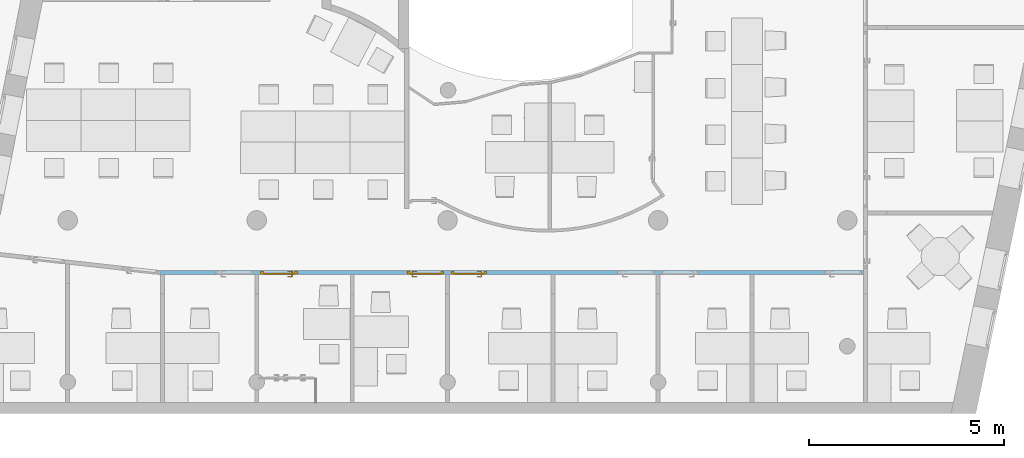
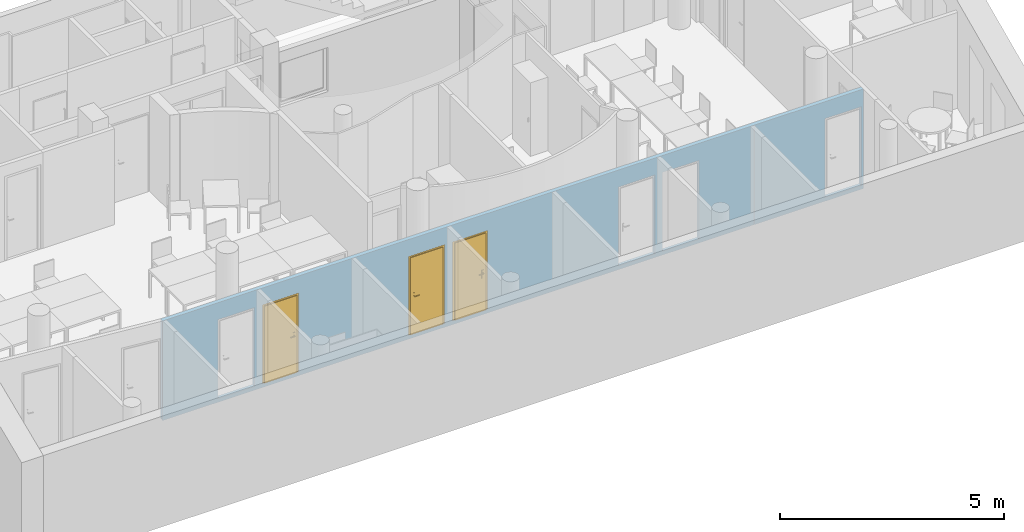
"""IFC4 building model written with IfcOpenShell, lengths in metres."""

import ifcopenshell
import ifcopenshell.guid

model = None  # the IFC model being written
_history = None  # IfcOwnerHistory: only IFC2X3 demands one
_inside = {}  # id of a spatial element -> (the spatial element, [elements in it])
_under = {}  # id of a project, library or spatial element -> (it, [spatial elements below it])
_declared = {}  # id of a project -> (the project, [libraries it declares])
_typed = {}  # id of a type object -> (the type object, [elements of that type])
_made_of = {}  # id of a material, layer set ... -> (it, [elements and type objects made of it])


def new_model(schema):
    """Start an empty IFC model of exactly this schema.

    Asked for "IFC4X3", IfcOpenShell would pick the latest addendum, in which some entities
    have other attributes; the version numbers below select the first issue.
    IFC2X3 requires an IfcOwnerHistory on every rooted entity: one is made here for all.
    """
    global model, _history
    if schema == "IFC4X3":
        model = ifcopenshell.file(schema_version=(4, 3, 0, 0))
    else:
        model = ifcopenshell.file(schema=schema)
    _inside.clear()
    _under.clear()
    _declared.clear()
    _typed.clear()
    _made_of.clear()
    _history = None
    if model.schema == "IFC2X3":
        org = make("IfcOrganization", Name="unknown")
        user = make(
            "IfcPersonAndOrganization",
            ThePerson=make("IfcPerson", FamilyName="unknown"),
            TheOrganization=org,
        )
        app = make(
            "IfcApplication",
            ApplicationDeveloper=org,
            Version="unknown",
            ApplicationFullName="unknown",
            ApplicationIdentifier="unknown",
        )
        _history = make(
            "IfcOwnerHistory",
            OwningUser=user,
            OwningApplication=app,
            ChangeAction="ADDED",
            CreationDate=0,
        )
    return model


def make(cls, **values):
    """One entity of the class cls with the attributes given. An attribute that is None is left unset."""
    return model.create_entity(
        cls, **{name: value for name, value in values.items() if value is not None}
    )


def entity(cls, *values):
    """Any entity or typed value of the class cls, its attributes in the order of the schema. None: left unset."""
    e = model.create_entity(cls)
    for i, value in enumerate(values):
        if value is not None:
            e[i] = value
    return e


def rooted(cls, **values):
    """An entity with a GlobalId (a new one), such as an element, a storey or a relation."""
    return make(cls, GlobalId=ifcopenshell.guid.new(), OwnerHistory=_history, **values)


def si_unit(unit_type, name, prefix=None):
    """IfcSIUnit, for example si_unit("LENGTHUNIT", "METRE", prefix="MILLI")."""
    return make("IfcSIUnit", UnitType=unit_type, Prefix=prefix, Name=name)


def converted_unit(unit_type, name, factor, base, dimensions=None, offset=None):
    """IfcConversionBasedUnit, such as the inch: factor (a typed value) times the base unit."""
    return make(
        "IfcConversionBasedUnit"
        if offset is None
        else "IfcConversionBasedUnitWithOffset",
        ConversionOffset=offset,
        Dimensions=None
        if dimensions is None
        else entity("IfcDimensionalExponents", *dimensions),
        UnitType=unit_type,
        Name=name,
        ConversionFactor=make(
            "IfcMeasureWithUnit", ValueComponent=factor, UnitComponent=base
        ),
    )


def derived_unit(unit_type, elements):
    """IfcDerivedUnit: a product of units, each with its exponent."""
    return make(
        "IfcDerivedUnit",
        Elements=[
            make("IfcDerivedUnitElement", Unit=unit, Exponent=power)
            for unit, power in elements
        ],
        UnitType=unit_type,
    )


def assignment(units):
    """IfcUnitAssignment: the units of a project."""
    return None if units is None else make("IfcUnitAssignment", Units=units)


def point(xyz):
    """IfcCartesianPoint."""
    return None if xyz is None else make("IfcCartesianPoint", Coordinates=xyz)


def direction(xyz):
    """IfcDirection."""
    return None if xyz is None else make("IfcDirection", DirectionRatios=xyz)


def frame(location, z_axis=None, x_axis=None):
    """IfcAxis2Placement3D, a coordinate frame: its origin and axes. An axis left out is left unset."""
    return make(
        "IfcAxis2Placement3D",
        Location=point(location),
        Axis=direction(z_axis),
        RefDirection=direction(x_axis),
    )


def origin():
    """The frame at (0, 0, 0) with its axes left unset."""
    return frame((0.0, 0.0, 0.0))


def origin_with_axes():
    """The frame at (0, 0, 0) with the z axis (0, 0, 1) and the x axis (1, 0, 0) written out."""
    return frame((0.0, 0.0, 0.0), z_axis=(0.0, 0.0, 1.0), x_axis=(1.0, 0.0, 0.0))


def place(relative_to, where):
    """IfcLocalPlacement: puts the frame where relative to a parent placement (None: the world)."""
    return make(
        "IfcLocalPlacement", PlacementRelTo=relative_to, RelativePlacement=where
    )


def context(
    kind, dimensions, precision=None, world=None, true_north=None, identifier=None
):
    """IfcGeometricRepresentationContext, for example the 3D "Model" context."""
    return make(
        "IfcGeometricRepresentationContext",
        ContextIdentifier=identifier,
        ContextType=kind,
        CoordinateSpaceDimension=dimensions,
        Precision=precision,
        WorldCoordinateSystem=world,
        TrueNorth=true_north,
    )


def subcontext(parent, identifier, kind, view, scale=None):
    """IfcGeometricRepresentationSubContext, for example "Body" below "Model"."""
    return make(
        "IfcGeometricRepresentationSubContext",
        ContextIdentifier=identifier,
        ContextType=kind,
        ParentContext=parent,
        TargetScale=scale,
        TargetView=view,
    )


def project(units=None, contexts=None):
    """IfcProject with its units and contexts."""
    return rooted(
        "IfcProject",
        Name="project",
        RepresentationContexts=contexts,
        UnitsInContext=assignment(units),
    )


def spatial(cls, under=None, at=None, **own):
    """A site, building, storey or space (cls), placed at a placement, below another one or the project."""
    s = rooted(cls, ObjectPlacement=at, **own)
    if under is not None:
        _under.setdefault(under.id(), (under, []))[1].append(s)
    return s


def polyline(points):
    """IfcPolyline through the points."""
    return make("IfcPolyline", Points=[point(p) for p in points])


def outline(outer, holes=None, kind="AREA"):
    """IfcArbitraryClosedProfileDef: a profile drawn as a closed curve; with holes, ...WithVoids."""
    if holes is None:
        return make("IfcArbitraryClosedProfileDef", ProfileType=kind, OuterCurve=outer)
    return make(
        "IfcArbitraryProfileDefWithVoids",
        ProfileType=kind,
        OuterCurve=outer,
        InnerCurves=holes,
    )


def extrude(swept, where, along, depth):
    """IfcExtrudedAreaSolid: the profile swept, set in the frame where, extruded along a direction by depth."""
    return make(
        "IfcExtrudedAreaSolid",
        SweptArea=swept,
        Position=where,
        ExtrudedDirection=direction(along),
        Depth=depth,
    )


def faces_of(points, faces, orient=None, outer=None):
    """IfcFace entities. A face is a list of loops; a loop is a list of indices into points, from 0.

    orient and outer hold one flag for each loop. By default every Orientation is true, the
    first loop of a face is its IfcFaceOuterBound and the others are IfcFaceBound.
    """
    made = []
    for i, loops in enumerate(faces):
        bounds = []
        for j, loop in enumerate(loops):
            is_outer = j == 0 if outer is None else outer[i][j]
            bounds.append(
                make(
                    "IfcFaceOuterBound" if is_outer else "IfcFaceBound",
                    Bound=make("IfcPolyLoop", Polygon=[points[k] for k in loop]),
                    Orientation=True if orient is None else orient[i][j],
                )
            )
        made.append(make("IfcFace", Bounds=bounds))
    return made


def faceted_brep(points, faces, orient=None, outer=None, voids=None):
    """IfcFacetedBrep: a solid bounded by flat faces; with voids (closed shells), ...WithVoids."""
    shared = [point(p) for p in points]
    hull = make("IfcClosedShell", CfsFaces=faces_of(shared, faces, orient, outer))
    if voids is None:
        return make("IfcFacetedBrep", Outer=hull)
    return make(
        "IfcFacetedBrepWithVoids",
        Outer=hull,
        Voids=[
            make(cls, CfsFaces=faces_of(shared, fs, o, b)) for cls, fs, o, b in voids
        ],
    )


def shape(context_of_items, identifier, shape_type, items):
    """IfcShapeRepresentation: the items that make up one representation, for example the "Body"."""
    return make(
        "IfcShapeRepresentation",
        ContextOfItems=context_of_items,
        RepresentationIdentifier=identifier,
        RepresentationType=shape_type,
        Items=items,
    )


def source(mapping_origin, context_of_items, identifier, shape_type, items):
    """IfcRepresentationMap: a shape defined once, which mapped items show again and again."""
    return make(
        "IfcRepresentationMap",
        MappingOrigin=mapping_origin,
        MappedRepresentation=shape(context_of_items, identifier, shape_type, items),
    )


def transform(
    local_origin,
    x_axis=None,
    y_axis=None,
    z_axis=None,
    scale=None,
    scale2=None,
    scale3=None,
    uniform=True,
):
    """IfcCartesianTransformationOperator3D, or its non-uniform kind. x_axis, y_axis, z_axis: its Axis1, 2, 3."""
    if uniform:
        return make(
            "IfcCartesianTransformationOperator3D",
            Axis1=direction(x_axis),
            Axis2=direction(y_axis),
            LocalOrigin=point(local_origin),
            Scale=scale,
            Axis3=direction(z_axis),
        )
    return make(
        "IfcCartesianTransformationOperator3DnonUniform",
        Axis1=direction(x_axis),
        Axis2=direction(y_axis),
        LocalOrigin=point(local_origin),
        Scale=scale,
        Axis3=direction(z_axis),
        Scale2=scale2,
        Scale3=scale3,
    )


def mapped(mapping_source, mapping_target):
    """IfcMappedItem: shows the shape of a source again, moved by a transform."""
    return make(
        "IfcMappedItem", MappingSource=mapping_source, MappingTarget=mapping_target
    )


def material(Name=None, Category=None):
    """IfcMaterial."""
    return make("IfcMaterial", Name=Name, Category=Category)


def layer(
    of_material, thickness, ventilated=None, Name=None, Category=None, Priority=None
):
    """IfcMaterialLayer: one layer of a wall or slab, of a material (None: an air gap)."""
    return make(
        "IfcMaterialLayer",
        Material=of_material,
        LayerThickness=thickness,
        IsVentilated=ventilated,
        Name=Name,
        Category=Category,
        Priority=Priority,
    )


def layer_set(layers, Name=None):
    """IfcMaterialLayerSet."""
    return make("IfcMaterialLayerSet", MaterialLayers=layers, LayerSetName=Name)


def layer_usage(for_layer_set, set_direction, sense, offset, extent=None):
    """IfcMaterialLayerSetUsage: how a layer set lies in its element."""
    return make(
        "IfcMaterialLayerSetUsage",
        ForLayerSet=for_layer_set,
        LayerSetDirection=set_direction,
        DirectionSense=sense,
        OffsetFromReferenceLine=offset,
        ReferenceExtent=extent,
    )


def made_of(thing, what):
    """Note that an element or type object is made of a material, layer set ...; save() writes the relation."""
    if what is not None:
        _made_of.setdefault(what.id(), (what, []))[1].append(thing)
    return thing


def element(
    cls,
    number,
    at=None,
    inside=None,
    cuts=None,
    type_object=None,
    material=None,
    context=None,
    identifier="Body",
    shape_type=None,
    held_by="IfcProductDefinitionShape",
    body=None,
    shapes=None,
    **own,
):
    """One element of the class cls, such as IfcWall. Its Tag is "e" and its number.

    at: its placement. inside: the storey or other place that contains it. cuts: it is an
    opening in that element (IfcRelVoidsElement). A single representation is given by context,
    identifier, shape_type and body (its items); several are given by shapes. held_by: the class
    of the entity that holds the representations. save() writes the other relations.
    """
    e = rooted(cls, Tag="e%d" % number, ObjectPlacement=at, **own)
    if body is not None:
        shapes = [shape(context, identifier, shape_type, body)]
    if shapes is not None:
        e.Representation = make(held_by, Representations=shapes)
    if inside is not None:
        _inside.setdefault(inside.id(), (inside, []))[1].append(e)
    if cuts is not None:
        rooted(
            "IfcRelVoidsElement", RelatingBuildingElement=cuts, RelatedOpeningElement=e
        )
    if type_object is not None:
        _typed.setdefault(type_object.id(), (type_object, []))[1].append(e)
    return made_of(e, material)


def fill(opening, filler):
    """IfcRelFillsElement: the door or window that sits in an opening."""
    return rooted(
        "IfcRelFillsElement",
        RelatingOpeningElement=opening,
        RelatedBuildingElement=filler,
    )


def aggregate(whole, parts):
    """IfcRelAggregates: a whole, such as a stair, and the parts it consists of."""
    return rooted("IfcRelAggregates", RelatingObject=whole, RelatedObjects=parts)


def save(model, path):
    """Write the relations noted so far, then the file.

    IfcRelAggregates (storeys below a building ...), IfcRelContainedInSpatialStructure (elements
    in a storey), IfcRelDefinesByType, IfcRelAssociatesMaterial and IfcRelDeclares: one each for
    every whole, place, type object, material and project.
    """
    for whole, parts in _under.values():
        aggregate(whole, parts)
    for where, things in _inside.values():
        rooted(
            "IfcRelContainedInSpatialStructure",
            RelatedElements=things,
            RelatingStructure=where,
        )
    for kind, things in _typed.values():
        rooted("IfcRelDefinesByType", RelatedObjects=things, RelatingType=kind)
    for what, things in _made_of.values():
        rooted("IfcRelAssociatesMaterial", RelatedObjects=things, RelatingMaterial=what)
    for by, libraries in _declared.values():
        rooted("IfcRelDeclares", RelatingContext=by, RelatedDefinitions=libraries)
    model.write(path)


model = new_model("IFC4")

# Units and contexts
model_context = context("Model", 3, precision=1e-05, world=origin())
body_context = subcontext(model_context, "Body", "Model", "MODEL_VIEW")
ifc_project = project(units=[si_unit("LENGTHUNIT", "METRE"), si_unit("AREAUNIT", "SQUARE_METRE"), si_unit("VOLUMEUNIT", "CUBIC_METRE"), si_unit("MASSUNIT", "GRAM", prefix="KILO"), converted_unit("PLANEANGLEUNIT", "DEGREE", entity("IfcPlaneAngleMeasure", 0.0174532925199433), si_unit("PLANEANGLEUNIT", "RADIAN"), dimensions=[0, 0, 0, 0, 0, 0, 0]), derived_unit("THERMALTRANSMITTANCEUNIT", [(si_unit("POWERUNIT", "WATT"), 1), (si_unit("THERMODYNAMICTEMPERATUREUNIT", "KELVIN"), -1), (si_unit("LENGTHUNIT", "METRE"), -2)]), derived_unit("VOLUMETRICFLOWRATEUNIT", [(si_unit("LENGTHUNIT", "METRE"), 3), (converted_unit("TIMEUNIT", "hour", entity("IfcTimeMeasure", 3600.0), si_unit("TIMEUNIT", "SECOND"), dimensions=[0, 0, 1, 0, 0, 0, 0]), -1), (si_unit("LENGTHUNIT", "METRE"), -1)])], contexts=[model_context])

# Building, storeys
building_placement = place(None, origin())
building = spatial("IfcBuilding", under=ifc_project, at=building_placement, Name="HABITATGE PLURIFAMILIAR", CompositionType="ELEMENT")
storey_1_placement = place(building_placement, frame((0.0, 0.0, 6.25)))
storey_1 = spatial("IfcBuildingStorey", under=building, at=storey_1_placement, Name="PLANTA PRIMERA", CompositionType="ELEMENT", Elevation=6.25)
storey_2_placement = place(storey_1_placement, frame((0.0, 0.0, 3.35)))
storey_2 = spatial("IfcBuildingStorey", under=storey_1, at=storey_2_placement, Name="NOU", CompositionType="PARTIAL")

# Wall, openings, doors
ifc_material = material()
ifc_layer = layer(ifc_material, 0.1)
ifc_layer_set = layer_set([ifc_layer])
ifc_layer_usage = layer_usage(ifc_layer_set, "AXIS2", "POSITIVE", 0.0)
wall_placement = place(storey_2_placement, frame((421.406984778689, 16.5094598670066, -3.45), z_axis=(0.0, 0.0, 1.0), x_axis=(-1.0, 0.0, 0.0)))
wall = element("IfcWall", 1, at=wall_placement, inside=storey_2, material=ifc_layer_usage, Name="Mampara P1", context=body_context, shape_type="SweptSolid", body=[
    extrude(outline(polyline([(-18.0374183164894, -0.1), (-0.00561454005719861, -0.1), (0.0, 0.0), (-15.1276972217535, 0.0), (-15.1276972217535, -0.000949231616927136), (-15.2276972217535, -0.000949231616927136), (-15.2276972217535, 0.0), (-18.0374183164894, 0.0), (-18.0374183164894, -0.1)])), frame((18.0374183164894, 0.1, 0.0), z_axis=(0.0, 0.0, 1.0), x_axis=(1.0, 0.0, 0.0)), (0.0, 0.0, 1.0), 2.71),
])
opening_1_placement = place(wall_placement, frame((0.99, 0.1, 0.1), z_axis=(0.0, -1.0, 0.0), x_axis=(0.0, 0.0, 1.0)))
element("IfcOpeningElement", 2, at=opening_1_placement, cuts=wall, Name="Vano de puerta P1", ObjectType="Opening", context=body_context, shape_type="SweptSolid", body=[
    extrude(outline(polyline([(2.15, 0.94), (2.15, 0.0), (0.0, 0.0), (0.0, 0.94), (2.15, 0.94)])), origin_with_axes(), (0.0, 0.0, 1.0), 0.1),
])
opening_2_placement = place(wall_placement, frame((4.22887875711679, 0.0, 0.1), z_axis=(0.0, 1.0, 0.0), x_axis=(0.0, 0.0, 1.0)))
element("IfcOpeningElement", 3, at=opening_2_placement, cuts=wall, Name="Vano de puerta P1", ObjectType="Opening", context=body_context, shape_type="SweptSolid", body=[
    extrude(outline(polyline([(2.15, 0.94), (2.15, 0.0), (0.0, 0.0), (0.0, 0.94), (2.15, 0.94)])), origin_with_axes(), (0.0, 0.0, 1.0), 0.1),
])
opening_3_placement = place(wall_placement, frame((5.36887875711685, 0.0, 0.1), z_axis=(0.0, 1.0, 0.0), x_axis=(0.0, 0.0, 1.0)))
element("IfcOpeningElement", 4, at=opening_3_placement, cuts=wall, Name="Vano de puerta P1", ObjectType="Opening", context=body_context, shape_type="SweptSolid", body=[
    extrude(outline(polyline([(2.15, 0.94), (2.15, 0.0), (0.0, 0.0), (0.0, 0.94), (2.15, 0.94)])), origin_with_axes(), (0.0, 0.0, 1.0), 0.1),
])
opening_4_placement = place(wall_placement, frame((9.6709060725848, 0.0, 0.1), z_axis=(0.0, 1.0, 0.0), x_axis=(0.0, 0.0, 1.0)))
opening_4 = element("IfcOpeningElement", 5, at=opening_4_placement, cuts=wall, Name="Vano de puerta P1", ObjectType="Opening", context=body_context, shape_type="SweptSolid", body=[
    extrude(outline(polyline([(2.15, 0.899999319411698), (2.15, 0.0), (0.0, 0.0), (0.0, 0.899999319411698), (2.15, 0.899999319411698)])), origin_with_axes(), (0.0, 0.0, 1.0), 0.1),
])
opening_5_placement = place(wall_placement, frame((10.7720101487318, 0.0, 0.1), z_axis=(0.0, 1.0, 0.0), x_axis=(0.0, 0.0, 1.0)))
opening_5 = element("IfcOpeningElement", 6, at=opening_5_placement, cuts=wall, Name="Vano de puerta P1", ObjectType="Opening", context=body_context, shape_type="SweptSolid", body=[
    extrude(outline(polyline([(2.15, 0.94), (2.15, 0.0), (0.0, 0.0), (0.0, 0.94), (2.15, 0.94)])), origin_with_axes(), (0.0, 0.0, 1.0), 0.1),
])
opening_6_placement = place(wall_placement, frame((14.5286824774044, 0.0, 0.1), z_axis=(0.0, 1.0, 0.0), x_axis=(0.0, 0.0, 1.0)))
opening_6 = element("IfcOpeningElement", 7, at=opening_6_placement, cuts=wall, Name="Vano de puerta P1", ObjectType="Opening", context=body_context, shape_type="SweptSolid", body=[
    extrude(outline(polyline([(2.15, 0.94), (2.15, 0.0), (0.0, 0.0), (0.0, 0.94), (2.15, 0.94)])), origin_with_axes(), (0.0, 0.0, 1.0), 0.1),
])
opening_7_placement = place(wall_placement, frame((15.6697872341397, 0.0, 0.1), z_axis=(0.0, 1.0, 0.0), x_axis=(0.0, 0.0, 1.0)))
element("IfcOpeningElement", 8, at=opening_7_placement, cuts=wall, Name="Vano de puerta P1", ObjectType="Opening", context=body_context, shape_type="SweptSolid", body=[
    extrude(outline(polyline([(2.15, 0.94), (2.15, 0.0), (0.0, 0.0), (0.0, 0.94), (2.15, 0.94)])), origin_with_axes(), (0.0, 0.0, 1.0), 0.1),
])
shared_shape_1 = source(origin_with_axes(), body_context, "Body", "Brep", [
    faceted_brep([(0.0, 0.07, 2.15), (0.0, 0.07, 0.0), (0.07, 0.07, 0.0), (0.07, 0.07, 2.15), (0.0, 0.0, 0.0), (0.0, 0.0, 2.15), (0.07, 0.0, 2.15), (0.07, 0.0, 0.0)], [[[0, 1, 2, 3]], [[4, 5, 6, 7]], [[1, 0, 5, 4]], [[2, 1, 4, 7]], [[3, 2, 7, 6]], [[0, 3, 6, 5]]], orient=[[False], [False], [False], [False], [False], [False]]),
    faceted_brep([(0.829999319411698, 0.07, 2.15), (0.829999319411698, 0.07, 0.0), (0.899999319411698, 0.07, 0.0), (0.899999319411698, 0.07, 2.15), (0.829999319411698, 0.0, 0.0), (0.829999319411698, 0.0, 2.15), (0.899999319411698, 0.0, 2.15), (0.899999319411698, 0.0, 0.0)], [[[0, 1, 2, 3]], [[4, 5, 6, 7]], [[1, 0, 5, 4]], [[2, 1, 4, 7]], [[3, 2, 7, 6]], [[0, 3, 6, 5]]], orient=[[False], [False], [False], [False], [False], [False]]),
    faceted_brep([(0.07, 0.07, 2.15), (0.07, 0.07, 2.08), (0.829999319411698, 0.07, 2.08), (0.829999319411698, 0.07, 2.15), (0.07, 0.0, 2.08), (0.07, 0.0, 2.15), (0.829999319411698, 0.0, 2.15), (0.829999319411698, 0.0, 2.08)], [[[0, 1, 2, 3]], [[4, 5, 6, 7]], [[1, 0, 5, 4]], [[2, 1, 4, 7]], [[3, 2, 7, 6]], [[0, 3, 6, 5]]], orient=[[False], [False], [False], [False], [False], [False]]),
    faceted_brep([(0.05, 0.09, 2.1), (0.05, 0.09, 0.0), (0.849999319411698, 0.09, 0.0), (0.849999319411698, 0.09, 2.1), (0.05, 0.05, 0.0), (0.05, 0.05, 2.1), (0.849999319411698, 0.05, 2.1), (0.849999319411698, 0.05, 0.0)], [[[0, 1, 2, 3]], [[4, 5, 6, 7]], [[1, 0, 5, 4]], [[2, 1, 4, 7]], [[3, 2, 7, 6]], [[0, 3, 6, 5]]], orient=[[False], [False], [False], [False], [False], [False]]),
    faceted_brep([(0.109999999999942, 0.05, 1.125), (0.109999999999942, 0.05, 0.91), (0.159999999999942, 0.05, 0.91), (0.159999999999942, 0.05, 1.125), (0.109999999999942, 0.04, 0.91), (0.109999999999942, 0.04, 1.125), (0.159999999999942, 0.04, 1.125), (0.159999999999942, 0.04, 0.91)], [[[0, 1, 2, 3]], [[4, 5, 6, 7]], [[1, 0, 5, 4]], [[2, 1, 4, 7]], [[3, 2, 7, 6]], [[0, 3, 6, 5]]], orient=[[False], [False], [False], [False], [False], [False]]),
    faceted_brep([(0.134999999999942, 0.04, 1.06), (0.129999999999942, 0.04, 1.05866025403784), (0.126339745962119, 0.04, 1.055), (0.124999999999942, 0.04, 1.05), (0.126339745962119, 0.04, 1.045), (0.129999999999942, 0.04, 1.04133974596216), (0.134999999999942, 0.04, 1.04), (0.139999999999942, 0.04, 1.04133974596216), (0.143660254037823, 0.04, 1.045), (0.144999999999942, 0.04, 1.05), (0.143660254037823, 0.04, 1.055), (0.139999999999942, 0.04, 1.05866025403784), (0.134999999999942, 0.0, 1.06), (0.129999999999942, -0.005, 1.05866025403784), (0.126339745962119, -0.00866025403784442, 1.055), (0.124999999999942, -0.01, 1.05), (0.126339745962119, -0.00866025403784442, 1.045), (0.129999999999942, -0.005, 1.04133974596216), (0.134999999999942, 0.0, 1.04), (0.139999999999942, 0.005, 1.04133974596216), (0.143660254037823, 0.00866025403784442, 1.045), (0.144999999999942, 0.01, 1.05), (0.143660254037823, 0.00866025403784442, 1.055), (0.139999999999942, 0.005, 1.05866025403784), (0.249999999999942, 0.0, 1.06), (0.249999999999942, 0.005, 1.05866025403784), (0.249999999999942, 0.00866025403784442, 1.055), (0.249999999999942, 0.01, 1.05), (0.249999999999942, 0.00866025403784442, 1.045), (0.249999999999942, 0.005, 1.04133974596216), (0.249999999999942, 0.0, 1.04), (0.249999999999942, -0.005, 1.04133974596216), (0.249999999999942, -0.00866025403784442, 1.045), (0.249999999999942, -0.01, 1.05), (0.249999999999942, -0.00866025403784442, 1.055), (0.249999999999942, -0.005, 1.05866025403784)], [[[0, 1, 2, 3, 4, 5, 6, 7, 8, 9, 10, 11]], [[0, 12, 13, 1]], [[1, 13, 14, 2]], [[2, 14, 15, 3]], [[3, 15, 16, 4]], [[4, 16, 17, 5]], [[5, 17, 18, 6]], [[6, 18, 19, 7]], [[7, 19, 20, 8]], [[8, 20, 21, 9]], [[9, 21, 22, 10]], [[10, 22, 23, 11]], [[11, 23, 12, 0]], [[24, 25, 26, 27, 28, 29, 30, 31, 32, 33, 34, 35]], [[12, 24, 35, 13]], [[13, 35, 34, 14]], [[14, 34, 33, 15]], [[15, 33, 32, 16]], [[16, 32, 31, 17]], [[17, 31, 30, 18]], [[18, 30, 29, 19]], [[19, 29, 28, 20]], [[20, 28, 27, 21]], [[21, 27, 26, 22]], [[22, 26, 25, 23]], [[23, 25, 24, 12]]], orient=[[False], [False], [False], [False], [False], [False], [False], [False], [False], [False], [False], [False], [False], [False], [False], [False], [False], [False], [False], [False], [False], [False], [False], [False], [False], [False]]),
    faceted_brep([(0.109999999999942, 0.09, 1.125), (0.159999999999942, 0.09, 1.125), (0.159999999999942, 0.09, 0.91), (0.109999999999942, 0.09, 0.91), (0.109999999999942, 0.1, 0.91), (0.159999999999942, 0.1, 0.91), (0.159999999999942, 0.1, 1.125), (0.109999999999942, 0.1, 1.125)], [[[0, 1, 2, 3]], [[4, 5, 6, 7]], [[3, 4, 7, 0]], [[2, 5, 4, 3]], [[1, 6, 5, 2]], [[0, 7, 6, 1]]], orient=[[False], [False], [False], [False], [False], [False]]),
    faceted_brep([(0.134999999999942, 0.1, 1.06), (0.139999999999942, 0.1, 1.05866025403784), (0.143660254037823, 0.1, 1.055), (0.144999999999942, 0.1, 1.05), (0.143660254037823, 0.1, 1.045), (0.139999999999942, 0.1, 1.04133974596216), (0.134999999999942, 0.1, 1.04), (0.129999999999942, 0.1, 1.04133974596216), (0.126339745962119, 0.1, 1.045), (0.124999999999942, 0.1, 1.05), (0.126339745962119, 0.1, 1.055), (0.129999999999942, 0.1, 1.05866025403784), (0.129999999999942, 0.145, 1.05866025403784), (0.134999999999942, 0.14, 1.06), (0.126339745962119, 0.148660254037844, 1.055), (0.124999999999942, 0.15, 1.05), (0.126339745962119, 0.148660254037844, 1.045), (0.129999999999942, 0.145, 1.04133974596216), (0.134999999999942, 0.14, 1.04), (0.139999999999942, 0.135, 1.04133974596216), (0.143660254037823, 0.131339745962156, 1.045), (0.144999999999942, 0.13, 1.05), (0.143660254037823, 0.131339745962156, 1.055), (0.139999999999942, 0.135, 1.05866025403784), (0.249999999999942, 0.14, 1.06), (0.249999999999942, 0.145, 1.05866025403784), (0.249999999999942, 0.148660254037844, 1.055), (0.249999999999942, 0.15, 1.05), (0.249999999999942, 0.148660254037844, 1.045), (0.249999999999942, 0.145, 1.04133974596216), (0.249999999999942, 0.14, 1.04), (0.249999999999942, 0.135, 1.04133974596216), (0.249999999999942, 0.131339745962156, 1.045), (0.249999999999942, 0.13, 1.05), (0.249999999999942, 0.131339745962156, 1.055), (0.249999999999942, 0.135, 1.05866025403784)], [[[0, 1, 2, 3, 4, 5, 6, 7, 8, 9, 10, 11]], [[0, 11, 12, 13]], [[11, 10, 14, 12]], [[10, 9, 15, 14]], [[9, 8, 16, 15]], [[8, 7, 17, 16]], [[7, 6, 18, 17]], [[6, 5, 19, 18]], [[5, 4, 20, 19]], [[4, 3, 21, 20]], [[3, 2, 22, 21]], [[2, 1, 23, 22]], [[1, 0, 13, 23]], [[24, 25, 26, 27, 28, 29, 30, 31, 32, 33, 34, 35]], [[13, 12, 25, 24]], [[12, 14, 26, 25]], [[14, 15, 27, 26]], [[15, 16, 28, 27]], [[16, 17, 29, 28]], [[17, 18, 30, 29]], [[18, 19, 31, 30]], [[19, 20, 32, 31]], [[20, 21, 33, 32]], [[21, 22, 34, 33]], [[22, 23, 35, 34]], [[23, 13, 24, 35]]], orient=[[False], [False], [False], [False], [False], [False], [False], [False], [False], [False], [False], [False], [False], [False], [False], [False], [False], [False], [False], [False], [False], [False], [False], [False], [False], [False]]),
])
door_1_placement = place(opening_4_placement, frame((0.0, 0.0, 0.015), z_axis=(1.0, 0.0, 0.0), x_axis=(0.0, 1.0, 0.0)))
door_1 = element("IfcDoor", 9, at=door_1_placement, inside=storey_2, Name="Porta P1", OperationType="USERDEFINED", OverallHeight=2.15, OverallWidth=0.9, PredefinedType="DOOR", context=body_context, shape_type="MappedRepresentation", body=[
    mapped(shared_shape_1, transform((0.0, 0.0, 0.0), x_axis=(1.0, 0.0, 0.0), y_axis=(0.0, 1.0, 0.0), z_axis=(0.0, 0.0, 1.0), scale=1.0)),
])
fill(opening_4, door_1)
shared_shape_2 = source(origin_with_axes(), body_context, "Body", "Brep", [
    faceted_brep([(0.94, 0.07, 2.15), (0.87, 0.07, 2.15), (0.87, 0.07, 0.0), (0.94, 0.07, 0.0), (0.94, 0.0, 0.0), (0.87, 0.0, 0.0), (0.87, 0.0, 2.15), (0.94, 0.0, 2.15)], [[[0, 1, 2, 3]], [[4, 5, 6, 7]], [[3, 4, 7, 0]], [[2, 5, 4, 3]], [[1, 6, 5, 2]], [[0, 7, 6, 1]]], orient=[[False], [False], [False], [False], [False], [False]]),
    faceted_brep([(0.07, 0.07, 2.15), (0.0, 0.07, 2.15), (0.0, 0.07, 0.0), (0.07, 0.07, 0.0), (0.07, 0.0, 0.0), (0.0, 0.0, 0.0), (0.0, 0.0, 2.15), (0.07, 0.0, 2.15)], [[[0, 1, 2, 3]], [[4, 5, 6, 7]], [[3, 4, 7, 0]], [[2, 5, 4, 3]], [[1, 6, 5, 2]], [[0, 7, 6, 1]]], orient=[[False], [False], [False], [False], [False], [False]]),
    faceted_brep([(0.87, 0.07, 2.15), (0.07, 0.07, 2.15), (0.07, 0.07, 2.08), (0.87, 0.07, 2.08), (0.87, 0.0, 2.08), (0.07, 0.0, 2.08), (0.07, 0.0, 2.15), (0.87, 0.0, 2.15)], [[[0, 1, 2, 3]], [[4, 5, 6, 7]], [[3, 4, 7, 0]], [[2, 5, 4, 3]], [[1, 6, 5, 2]], [[0, 7, 6, 1]]], orient=[[False], [False], [False], [False], [False], [False]]),
    faceted_brep([(0.89, 0.09, 2.1), (0.05, 0.09, 2.1), (0.05, 0.09, 0.0), (0.89, 0.09, 0.0), (0.89, 0.05, 0.0), (0.05, 0.05, 0.0), (0.05, 0.05, 2.1), (0.89, 0.05, 2.1)], [[[0, 1, 2, 3]], [[4, 5, 6, 7]], [[3, 4, 7, 0]], [[2, 5, 4, 3]], [[1, 6, 5, 2]], [[0, 7, 6, 1]]], orient=[[False], [False], [False], [False], [False], [False]]),
    faceted_brep([(0.83, 0.05, 1.125), (0.78, 0.05, 1.125), (0.78, 0.05, 0.91), (0.83, 0.05, 0.91), (0.83, 0.04, 0.91), (0.78, 0.04, 0.91), (0.78, 0.04, 1.125), (0.83, 0.04, 1.125)], [[[0, 1, 2, 3]], [[4, 5, 6, 7]], [[3, 4, 7, 0]], [[2, 5, 4, 3]], [[1, 6, 5, 2]], [[0, 7, 6, 1]]], orient=[[False], [False], [False], [False], [False], [False]]),
    faceted_brep([(0.805, 0.04, 1.06), (0.8, 0.04, 1.05866025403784), (0.796339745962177, 0.04, 1.055), (0.795, 0.04, 1.05), (0.796339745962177, 0.04, 1.045), (0.8, 0.04, 1.04133974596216), (0.805, 0.04, 1.04), (0.81, 0.04, 1.04133974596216), (0.813660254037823, 0.04, 1.045), (0.815, 0.04, 1.05), (0.813660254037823, 0.04, 1.055), (0.81, 0.04, 1.05866025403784), (0.81, -0.005, 1.05866025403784), (0.805, 0.0, 1.06), (0.813660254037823, -0.00866025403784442, 1.055), (0.815, -0.01, 1.05), (0.813660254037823, -0.00866025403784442, 1.045), (0.81, -0.005, 1.04133974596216), (0.805, 0.0, 1.04), (0.8, 0.005, 1.04133974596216), (0.796339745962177, 0.00866025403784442, 1.045), (0.795, 0.01, 1.05), (0.796339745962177, 0.00866025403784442, 1.055), (0.8, 0.005, 1.05866025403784), (0.69, 0.0, 1.06), (0.69, -0.005, 1.05866025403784), (0.69, -0.00866025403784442, 1.055), (0.69, -0.01, 1.05), (0.69, -0.00866025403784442, 1.045), (0.69, -0.005, 1.04133974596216), (0.69, 0.0, 1.04), (0.69, 0.005, 1.04133974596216), (0.69, 0.00866025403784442, 1.045), (0.69, 0.01, 1.05), (0.69, 0.00866025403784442, 1.055), (0.69, 0.005, 1.05866025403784)], [[[0, 1, 2, 3, 4, 5, 6, 7, 8, 9, 10, 11]], [[0, 11, 12, 13]], [[11, 10, 14, 12]], [[10, 9, 15, 14]], [[9, 8, 16, 15]], [[8, 7, 17, 16]], [[7, 6, 18, 17]], [[6, 5, 19, 18]], [[5, 4, 20, 19]], [[4, 3, 21, 20]], [[3, 2, 22, 21]], [[2, 1, 23, 22]], [[1, 0, 13, 23]], [[24, 25, 26, 27, 28, 29, 30, 31, 32, 33, 34, 35]], [[13, 12, 25, 24]], [[12, 14, 26, 25]], [[14, 15, 27, 26]], [[15, 16, 28, 27]], [[16, 17, 29, 28]], [[17, 18, 30, 29]], [[18, 19, 31, 30]], [[19, 20, 32, 31]], [[20, 21, 33, 32]], [[21, 22, 34, 33]], [[22, 23, 35, 34]], [[23, 13, 24, 35]]], orient=[[False], [False], [False], [False], [False], [False], [False], [False], [False], [False], [False], [False], [False], [False], [False], [False], [False], [False], [False], [False], [False], [False], [False], [False], [False], [False]]),
    faceted_brep([(0.83, 0.09, 1.125), (0.83, 0.09, 0.91), (0.78, 0.09, 0.91), (0.78, 0.09, 1.125), (0.83, 0.1, 0.91), (0.83, 0.1, 1.125), (0.78, 0.1, 1.125), (0.78, 0.1, 0.91)], [[[0, 1, 2, 3]], [[4, 5, 6, 7]], [[1, 0, 5, 4]], [[2, 1, 4, 7]], [[3, 2, 7, 6]], [[0, 3, 6, 5]]], orient=[[False], [False], [False], [False], [False], [False]]),
    faceted_brep([(0.805, 0.1, 1.06), (0.81, 0.1, 1.05866025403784), (0.813660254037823, 0.1, 1.055), (0.815, 0.1, 1.05), (0.813660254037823, 0.1, 1.045), (0.81, 0.1, 1.04133974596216), (0.805, 0.1, 1.04), (0.8, 0.1, 1.04133974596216), (0.796339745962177, 0.1, 1.045), (0.795, 0.1, 1.05), (0.796339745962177, 0.1, 1.055), (0.8, 0.1, 1.05866025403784), (0.805, 0.14, 1.06), (0.81, 0.145, 1.05866025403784), (0.813660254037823, 0.148660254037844, 1.055), (0.815, 0.15, 1.05), (0.813660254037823, 0.148660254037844, 1.045), (0.81, 0.145, 1.04133974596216), (0.805, 0.14, 1.04), (0.8, 0.135, 1.04133974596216), (0.796339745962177, 0.131339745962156, 1.045), (0.795, 0.13, 1.05), (0.796339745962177, 0.131339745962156, 1.055), (0.8, 0.135, 1.05866025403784), (0.69, 0.14, 1.06), (0.69, 0.135, 1.05866025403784), (0.69, 0.131339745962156, 1.055), (0.69, 0.13, 1.05), (0.69, 0.131339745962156, 1.045), (0.69, 0.135, 1.04133974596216), (0.69, 0.14, 1.04), (0.69, 0.145, 1.04133974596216), (0.69, 0.148660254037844, 1.045), (0.69, 0.15, 1.05), (0.69, 0.148660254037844, 1.055), (0.69, 0.145, 1.05866025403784)], [[[0, 1, 2, 3, 4, 5, 6, 7, 8, 9, 10, 11]], [[0, 12, 13, 1]], [[1, 13, 14, 2]], [[2, 14, 15, 3]], [[3, 15, 16, 4]], [[4, 16, 17, 5]], [[5, 17, 18, 6]], [[6, 18, 19, 7]], [[7, 19, 20, 8]], [[8, 20, 21, 9]], [[9, 21, 22, 10]], [[10, 22, 23, 11]], [[11, 23, 12, 0]], [[24, 25, 26, 27, 28, 29, 30, 31, 32, 33, 34, 35]], [[12, 24, 35, 13]], [[13, 35, 34, 14]], [[14, 34, 33, 15]], [[15, 33, 32, 16]], [[16, 32, 31, 17]], [[17, 31, 30, 18]], [[18, 30, 29, 19]], [[19, 29, 28, 20]], [[20, 28, 27, 21]], [[21, 27, 26, 22]], [[22, 26, 25, 23]], [[23, 25, 24, 12]]], orient=[[False], [False], [False], [False], [False], [False], [False], [False], [False], [False], [False], [False], [False], [False], [False], [False], [False], [False], [False], [False], [False], [False], [False], [False], [False], [False]]),
])
door_2_placement = place(opening_5_placement, frame((0.0, 0.0, 0.015), z_axis=(1.0, 0.0, 0.0), x_axis=(0.0, 1.0, 0.0)))
door_2 = element("IfcDoor", 10, at=door_2_placement, inside=storey_2, Name="Porta P1", OperationType="USERDEFINED", OverallHeight=2.15, OverallWidth=0.94, PredefinedType="DOOR", context=body_context, shape_type="MappedRepresentation", body=[
    mapped(shared_shape_2, transform((0.0, 0.0, 0.0), x_axis=(1.0, 0.0, 0.0), y_axis=(0.0, 1.0, 0.0), z_axis=(0.0, 0.0, 1.0), scale=1.0)),
])
fill(opening_5, door_2)
shared_shape_3 = source(origin_with_axes(), body_context, "Body", "Brep", [
    faceted_brep([(0.0, 0.07, 2.15), (0.0, 0.07, 0.0), (0.07, 0.07, 0.0), (0.07, 0.07, 2.15), (0.0, 0.0, 0.0), (0.0, 0.0, 2.15), (0.07, 0.0, 2.15), (0.07, 0.0, 0.0)], [[[0, 1, 2, 3]], [[4, 5, 6, 7]], [[1, 0, 5, 4]], [[2, 1, 4, 7]], [[3, 2, 7, 6]], [[0, 3, 6, 5]]], orient=[[False], [False], [False], [False], [False], [False]]),
    faceted_brep([(0.87, 0.07, 2.15), (0.87, 0.07, 0.0), (0.94, 0.07, 0.0), (0.94, 0.07, 2.15), (0.87, 0.0, 0.0), (0.87, 0.0, 2.15), (0.94, 0.0, 2.15), (0.94, 0.0, 0.0)], [[[0, 1, 2, 3]], [[4, 5, 6, 7]], [[1, 0, 5, 4]], [[2, 1, 4, 7]], [[3, 2, 7, 6]], [[0, 3, 6, 5]]], orient=[[False], [False], [False], [False], [False], [False]]),
    faceted_brep([(0.07, 0.07, 2.15), (0.07, 0.07, 2.08), (0.87, 0.07, 2.08), (0.87, 0.07, 2.15), (0.07, 0.0, 2.08), (0.07, 0.0, 2.15), (0.87, 0.0, 2.15), (0.87, 0.0, 2.08)], [[[0, 1, 2, 3]], [[4, 5, 6, 7]], [[1, 0, 5, 4]], [[2, 1, 4, 7]], [[3, 2, 7, 6]], [[0, 3, 6, 5]]], orient=[[False], [False], [False], [False], [False], [False]]),
    faceted_brep([(0.05, 0.09, 2.1), (0.05, 0.09, 0.0), (0.89, 0.09, 0.0), (0.89, 0.09, 2.1), (0.05, 0.05, 0.0), (0.05, 0.05, 2.1), (0.89, 0.05, 2.1), (0.89, 0.05, 0.0)], [[[0, 1, 2, 3]], [[4, 5, 6, 7]], [[1, 0, 5, 4]], [[2, 1, 4, 7]], [[3, 2, 7, 6]], [[0, 3, 6, 5]]], orient=[[False], [False], [False], [False], [False], [False]]),
    faceted_brep([(0.11, 0.05, 1.125), (0.11, 0.05, 0.91), (0.16, 0.05, 0.91), (0.16, 0.05, 1.125), (0.11, 0.04, 0.91), (0.11, 0.04, 1.125), (0.16, 0.04, 1.125), (0.16, 0.04, 0.91)], [[[0, 1, 2, 3]], [[4, 5, 6, 7]], [[1, 0, 5, 4]], [[2, 1, 4, 7]], [[3, 2, 7, 6]], [[0, 3, 6, 5]]], orient=[[False], [False], [False], [False], [False], [False]]),
    faceted_brep([(0.135, 0.04, 1.06), (0.13, 0.04, 1.05866025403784), (0.126339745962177, 0.04, 1.055), (0.125, 0.04, 1.05), (0.126339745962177, 0.04, 1.045), (0.13, 0.04, 1.04133974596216), (0.135, 0.04, 1.04), (0.14, 0.04, 1.04133974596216), (0.143660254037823, 0.04, 1.045), (0.145, 0.04, 1.05), (0.143660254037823, 0.04, 1.055), (0.14, 0.04, 1.05866025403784), (0.135, 0.0, 1.06), (0.13, -0.005, 1.05866025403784), (0.126339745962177, -0.00866025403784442, 1.055), (0.125, -0.01, 1.05), (0.126339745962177, -0.00866025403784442, 1.045), (0.13, -0.005, 1.04133974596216), (0.135, 0.0, 1.04), (0.14, 0.005, 1.04133974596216), (0.143660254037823, 0.00866025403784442, 1.045), (0.145, 0.01, 1.05), (0.143660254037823, 0.00866025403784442, 1.055), (0.14, 0.005, 1.05866025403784), (0.25, 0.0, 1.06), (0.25, 0.005, 1.05866025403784), (0.25, 0.00866025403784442, 1.055), (0.25, 0.01, 1.05), (0.25, 0.00866025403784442, 1.045), (0.25, 0.005, 1.04133974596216), (0.25, 0.0, 1.04), (0.25, -0.005, 1.04133974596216), (0.25, -0.00866025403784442, 1.045), (0.25, -0.01, 1.05), (0.25, -0.00866025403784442, 1.055), (0.25, -0.005, 1.05866025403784)], [[[0, 1, 2, 3, 4, 5, 6, 7, 8, 9, 10, 11]], [[0, 12, 13, 1]], [[1, 13, 14, 2]], [[2, 14, 15, 3]], [[3, 15, 16, 4]], [[4, 16, 17, 5]], [[5, 17, 18, 6]], [[6, 18, 19, 7]], [[7, 19, 20, 8]], [[8, 20, 21, 9]], [[9, 21, 22, 10]], [[10, 22, 23, 11]], [[11, 23, 12, 0]], [[24, 25, 26, 27, 28, 29, 30, 31, 32, 33, 34, 35]], [[12, 24, 35, 13]], [[13, 35, 34, 14]], [[14, 34, 33, 15]], [[15, 33, 32, 16]], [[16, 32, 31, 17]], [[17, 31, 30, 18]], [[18, 30, 29, 19]], [[19, 29, 28, 20]], [[20, 28, 27, 21]], [[21, 27, 26, 22]], [[22, 26, 25, 23]], [[23, 25, 24, 12]]], orient=[[False], [False], [False], [False], [False], [False], [False], [False], [False], [False], [False], [False], [False], [False], [False], [False], [False], [False], [False], [False], [False], [False], [False], [False], [False], [False]]),
    faceted_brep([(0.11, 0.09, 1.125), (0.16, 0.09, 1.125), (0.16, 0.09, 0.91), (0.11, 0.09, 0.91), (0.11, 0.1, 0.91), (0.16, 0.1, 0.91), (0.16, 0.1, 1.125), (0.11, 0.1, 1.125)], [[[0, 1, 2, 3]], [[4, 5, 6, 7]], [[3, 4, 7, 0]], [[2, 5, 4, 3]], [[1, 6, 5, 2]], [[0, 7, 6, 1]]], orient=[[False], [False], [False], [False], [False], [False]]),
    faceted_brep([(0.135, 0.1, 1.06), (0.14, 0.1, 1.05866025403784), (0.143660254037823, 0.1, 1.055), (0.145, 0.1, 1.05), (0.143660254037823, 0.1, 1.045), (0.14, 0.1, 1.04133974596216), (0.135, 0.1, 1.04), (0.13, 0.1, 1.04133974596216), (0.126339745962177, 0.1, 1.045), (0.125, 0.1, 1.05), (0.126339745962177, 0.1, 1.055), (0.13, 0.1, 1.05866025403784), (0.13, 0.145, 1.05866025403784), (0.135, 0.14, 1.06), (0.126339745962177, 0.148660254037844, 1.055), (0.125, 0.15, 1.05), (0.126339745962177, 0.148660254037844, 1.045), (0.13, 0.145, 1.04133974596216), (0.135, 0.14, 1.04), (0.14, 0.135, 1.04133974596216), (0.143660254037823, 0.131339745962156, 1.045), (0.145, 0.13, 1.05), (0.143660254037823, 0.131339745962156, 1.055), (0.14, 0.135, 1.05866025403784), (0.25, 0.14, 1.06), (0.25, 0.145, 1.05866025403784), (0.25, 0.148660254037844, 1.055), (0.25, 0.15, 1.05), (0.25, 0.148660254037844, 1.045), (0.25, 0.145, 1.04133974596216), (0.25, 0.14, 1.04), (0.25, 0.135, 1.04133974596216), (0.25, 0.131339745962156, 1.045), (0.25, 0.13, 1.05), (0.25, 0.131339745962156, 1.055), (0.25, 0.135, 1.05866025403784)], [[[0, 1, 2, 3, 4, 5, 6, 7, 8, 9, 10, 11]], [[0, 11, 12, 13]], [[11, 10, 14, 12]], [[10, 9, 15, 14]], [[9, 8, 16, 15]], [[8, 7, 17, 16]], [[7, 6, 18, 17]], [[6, 5, 19, 18]], [[5, 4, 20, 19]], [[4, 3, 21, 20]], [[3, 2, 22, 21]], [[2, 1, 23, 22]], [[1, 0, 13, 23]], [[24, 25, 26, 27, 28, 29, 30, 31, 32, 33, 34, 35]], [[13, 12, 25, 24]], [[12, 14, 26, 25]], [[14, 15, 27, 26]], [[15, 16, 28, 27]], [[16, 17, 29, 28]], [[17, 18, 30, 29]], [[18, 19, 31, 30]], [[19, 20, 32, 31]], [[20, 21, 33, 32]], [[21, 22, 34, 33]], [[22, 23, 35, 34]], [[23, 13, 24, 35]]], orient=[[False], [False], [False], [False], [False], [False], [False], [False], [False], [False], [False], [False], [False], [False], [False], [False], [False], [False], [False], [False], [False], [False], [False], [False], [False], [False]]),
])
door_3_placement = place(opening_6_placement, frame((0.0, 0.0, 0.015), z_axis=(1.0, 0.0, 0.0), x_axis=(0.0, 1.0, 0.0)))
door_3 = element("IfcDoor", 11, at=door_3_placement, inside=storey_2, Name="Porta P1", OperationType="USERDEFINED", OverallHeight=2.15, OverallWidth=0.94, PredefinedType="DOOR", context=body_context, shape_type="MappedRepresentation", body=[
    mapped(shared_shape_3, transform((0.0, 0.0, 0.0), x_axis=(1.0, 0.0, 0.0), y_axis=(0.0, 1.0, 0.0), z_axis=(0.0, 0.0, 1.0), scale=1.0)),
])
fill(opening_6, door_3)

save(model, "model.ifc")
